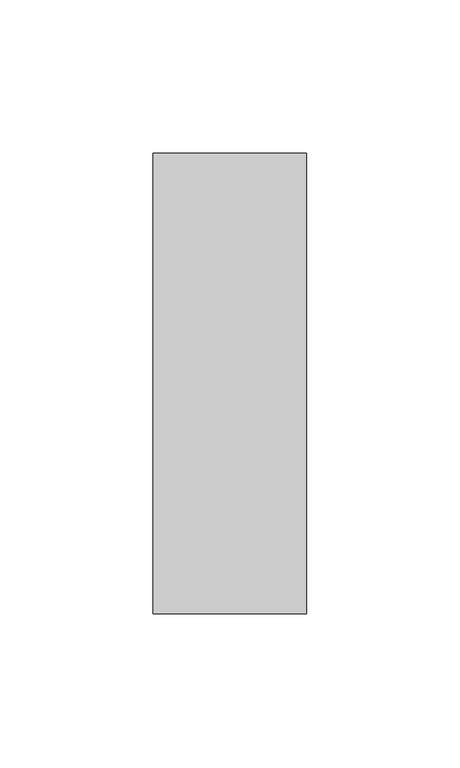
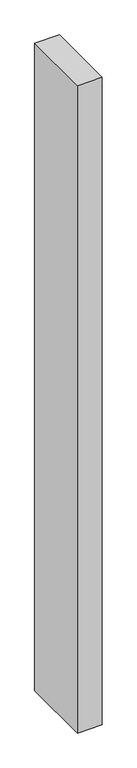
"""IFC4 building model written with IfcOpenShell, lengths in millimetres: member geometry, Прямоугольный импост : 50 x 150 мм."""

from ifc_helpers import new_model, si_unit, frame, origin, place, context, project, spatial, polyline, outline, extrude, source, transform, mapped, element, save


def member_0778f128(model_context):
    return source(origin(), model_context, "Body", "SweptSolid", [
        extrude(outline(polyline([(25.0, 75.0), (25.0, -75.0), (-25.0, -75.0), (-25.0, 75.0), (25.0, 75.0)])), frame((0.0, 0.0, -1384.0968364), z_axis=(0.0, 0.0, 1.0), x_axis=(1.0, 0.0, 0.0)), (0.0, 0.0, 1.0), 1384.0968364),
    ])


if __name__ == "__main__":
    model = new_model("IFC4")
    model_context = context("Model", 3, world=origin())
    ifc_project = project(units=[si_unit("LENGTHUNIT", "METRE", prefix="MILLI")], contexts=[model_context])
    site = spatial("IfcSite", under=ifc_project)
    building = spatial("IfcBuilding", under=site)
    placement = place(None, origin())
    member_shape = member_0778f128(model_context)
    element("IfcMember", 1, ObjectType="Прямоугольный импост : 50 x 150 мм", at=placement, inside=building, context=model_context, shape_type="MappedRepresentation", body=[
        mapped(member_shape, transform((0.0, 0.0, 0.0), x_axis=(1.0, 0.0, 0.0), y_axis=(0.0, 1.0, 0.0), z_axis=(0.0, 0.0, 1.0))),
    ])
    save(model, "model.ifc")
